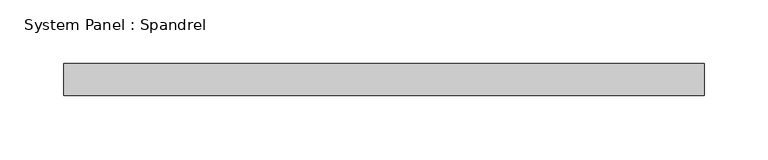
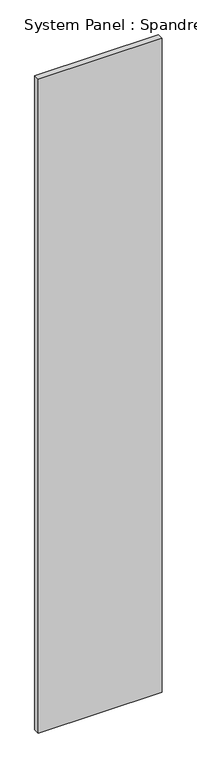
"""IFC4 building model written with IfcOpenShell, lengths in millimetres: plate geometry, System Panel : Spandrel."""

from ifc_helpers import new_model, si_unit, origin, origin_with_axes, place, context, project, spatial, polyline, outline, extrude, source, transform, mapped, element, save


def system_panel_spandrel_e14ae013(model_context):
    return source(origin(), model_context, "Body", "SweptSolid", [
        extrude(outline(polyline([(250.9999999, -25.0), (-250.9999999, -25.0), (-250.9999999, 0.0), (250.9999999, 0.0), (250.9999999, -25.0)])), origin_with_axes(), (0.0, 0.0, 1.0), 2800.0),
    ])


if __name__ == "__main__":
    model = new_model("IFC4")
    model_context = context("Model", 3, world=origin())
    ifc_project = project(units=[si_unit("LENGTHUNIT", "METRE", prefix="MILLI")], contexts=[model_context])
    site = spatial("IfcSite", under=ifc_project)
    building = spatial("IfcBuilding", under=site)
    placement = place(None, origin())
    system_panel_spandrel_shape = system_panel_spandrel_e14ae013(model_context)
    element("IfcPlate", 1, ObjectType="System Panel : Spandrel", at=placement, inside=building, context=model_context, shape_type="MappedRepresentation", body=[
        mapped(system_panel_spandrel_shape, transform((0.0, 0.0, 0.0), x_axis=(1.0, 0.0, 0.0), y_axis=(0.0, 1.0, 0.0), z_axis=(0.0, 0.0, 1.0))),
    ])
    save(model, "model.ifc")
